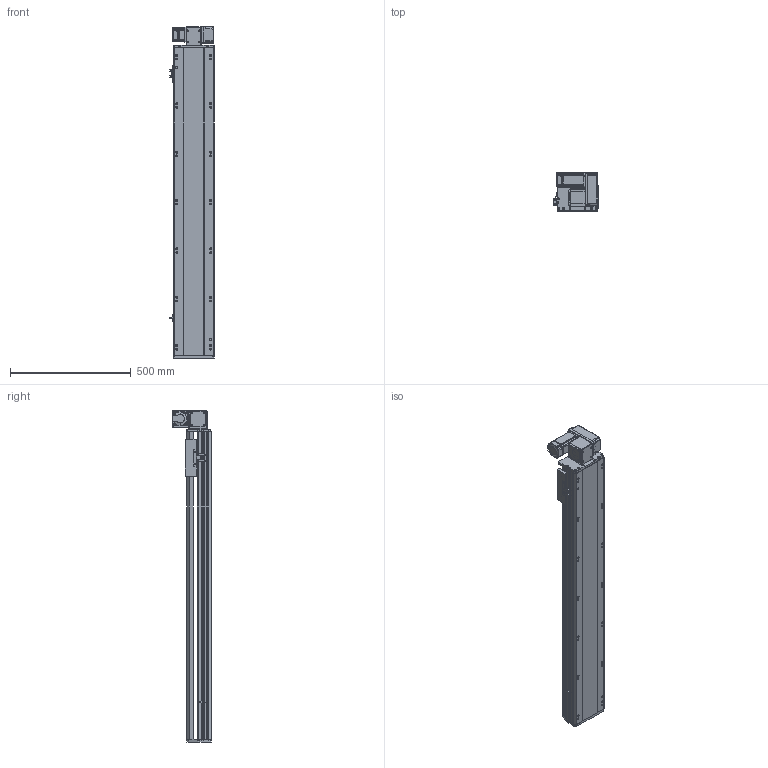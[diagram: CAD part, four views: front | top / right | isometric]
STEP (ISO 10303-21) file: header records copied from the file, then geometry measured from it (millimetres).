
FILE_DESCRIPTION (( 'STEP AP214' ), '1' );
FILE_NAME ('RTB17S-XX-1000-RW-M40-C4.STEP', '2025-12-11T08:53:43', ( '' ), ( '' ), 'SwSTEP 2.0', 'SolidWorks 2018', '' );
FILE_SCHEMA (( 'AUTOMOTIVE_DESIGN' ));
Length unit declared in the file: millimetre
Products named in the file (14): RTB14-L-005P--轴承塑胶压盖^RTB17S-RW-皮带座装配-400W_RTB17S-XX-XX-RW-M40-C4; RMP17S-L-014-T20--々湍釱^RTB17S-RW-々湍釱蚾饜-400W_RTB17S-XX-XX-RW-M40-C4; RTB17S-L-001耜醱啣^RTB17S-XX-XX-RW-M40-C4; OMRON EE-SX672 传感器^RTB17S-XX-XX-RW-M40-C4; RTB17-R-011菁釱^RTB17S-XX-XX-RW-M40-C4; RTB17S-L-004佪裝蹟譫蟀諉釱^RTB17S-XX-XX-RW-M40-C4; RTB14-L-018P^RTB17S-RW-々湍釱蚾饜-400W_RTB17S-XX-XX-RW-M40-C4; RTB17S-L-007奻裔^RTB17S-XX-XX-RW-M40-C4; 400W侜督萇儂^RTB17S-XX-XX-RW-M40-C4; RTH13-BL-012覜茼え俋离^RTB17S-XX-XX-RW-M40-C4; RTB17S-XX-1000-RW-M40-C4; RTB17S-RW-々湍釱蚾饜-400W^RTB17S-XX-XX-RW-M40-C4; RTB14-L-017P^RTB17S-RW-々湍釱蚾饜-400W_RTB17S-XX-XX-RW-M40-C4; RTB14-L-008-M20--萇儂啣^RTB17S-RW-々湍釱蚾饜-400W_RTB17S-XX-XX-RW-M40-C4
Assembly tree (16 placements, depth 3):
  RTB17S-XX-1000-RW-M40-C4
    RTB17-R-011菁釱^RTB17S-XX-XX-RW-M40-C4
    RTB17S-L-007奻裔^RTB17S-XX-XX-RW-M40-C4
    OMRON EE-SX672 传感器^RTB17S-XX-XX-RW-M40-C4  x3
    RTB17S-L-001耜醱啣^RTB17S-XX-XX-RW-M40-C4
    400W侜督萇儂^RTB17S-XX-XX-RW-M40-C4
    RTB17S-L-004佪裝蹟譫蟀諉釱^RTB17S-XX-XX-RW-M40-C4
    RTH13-BL-012覜茼え俋离^RTB17S-XX-XX-RW-M40-C4
    RTB17S-RW-々湍釱蚾饜-400W^RTB17S-XX-XX-RW-M40-C4
      RMP17S-L-014-T20--々湍釱^RTB17S-RW-々湍釱蚾饜-400W_RTB17S-XX-XX-RW-M40-C4
      RTB14-L-005P--轴承塑胶压盖^RTB17S-RW-皮带座装配-400W_RTB17S-XX-XX-RW-M40-C4
      RTB14-L-008-M20--萇儂啣^RTB17S-RW-々湍釱蚾饜-400W_RTB17S-XX-XX-RW-M40-C4
      RTB14-L-017P^RTB17S-RW-々湍釱蚾饜-400W_RTB17S-XX-XX-RW-M40-C4  x2
      RTB14-L-018P^RTB17S-RW-々湍釱蚾饜-400W_RTB17S-XX-XX-RW-M40-C4
Bounding box: 183.5 x 160.5 x 1372.5 mm (x, y, z)
Volume: 12376987.7 mm3; surface area: 1497165.5 mm2
Topology: 15 solids, 15 shells, 2205 faces, 6087 edges, 3969 vertices
Faces by surface type: plane 1068, cylinder 689, bspline 301, cone 139, torus 8
Entity records: 62633 total; most frequent: CARTESIAN_POINT 17492, ORIENTED_EDGE 9018, DIRECTION 8396, EDGE_CURVE 4509, VERTEX_POINT 2957, AXIS2_PLACEMENT_3D 2887, LINE 2622, VECTOR 2622
